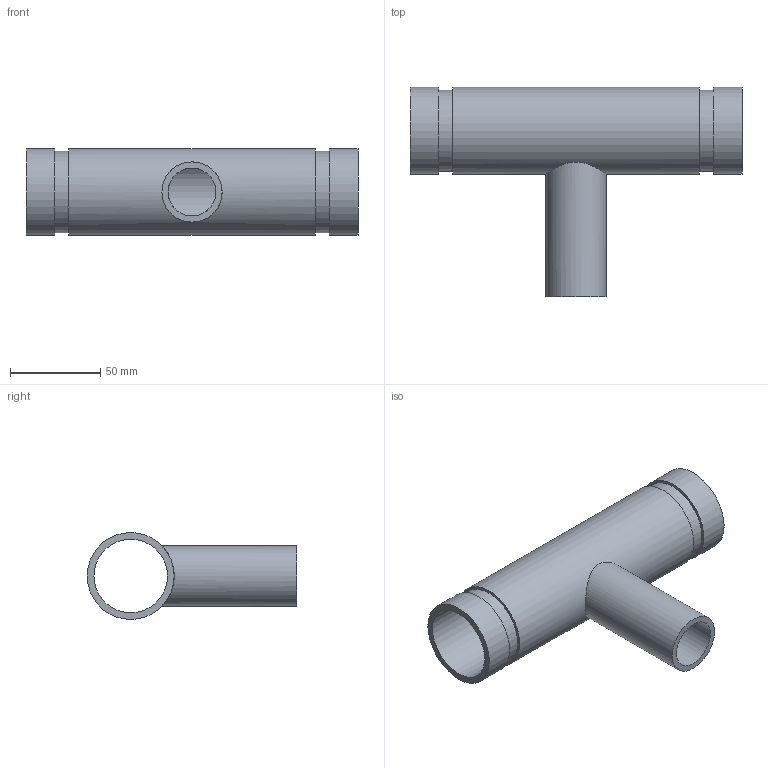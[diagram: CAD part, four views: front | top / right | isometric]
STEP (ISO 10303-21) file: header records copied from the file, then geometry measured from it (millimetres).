
FILE_DESCRIPTION(/* description */ ('VIC REDUCING TEE No 29T FFT (OGSxMPT)','CAx-IF Rec.Pracs.---Representation and Presentation of Product Manufacturing Information (PMI)---4.0---2014-10-13'),/* implementation_level */ '2;1');
FILE_NAME(/* name */ 'C:\Users\kkamble\AppData\Roaming\Autodesk\ApplicationPlugins\Back Up\Victaulic_IPS_Tee Reducing_No 29T FFT (OGSxMPT)\Victaulic_IPS_Tee Reducing_No 29T FFT (OGSxMPT)_01.5x01.0 (40x25).stp',/* time_stamp */ '2020-09-16T22:36:54+05:00',/* author */ ('CORINNE GRAY'),/* organization */ ('Victaulic'),/* preprocessor_version */ 'ST-DEVELOPER v17.2',/* originating_system */ 'Autodesk Inventor 2019',/* authorisation */ '');
FILE_SCHEMA (('AP242_MANAGED_MODEL_BASED_3D_ENGINEERING_MIM_LF { 1 0 10303 442 1 1 4 }'));
Length unit declared in the file: inch
Products named in the file (1): 29 FFT-01.5x01.0
Bounding box: 184.4 x 116.33 x 48.26 mm (x, y, z)
Volume: 111758.4 mm3; surface area: 65923.6 mm2
Topology: 1 solids, 1 shells, 15 faces, 32 edges, 24 vertices
Faces by surface type: cylinder 8, plane 7
Full cylindrical faces by diameter (mm): 26.645 x1, 33.401 x1, 40.894 x1, 45.085 x2, 48.26 x3
Entity records: 685 total; most frequent: CARTESIAN_POINT 197, DIRECTION 106, ORIENTED_EDGE 64, AXIS2_PLACEMENT_3D 49, EDGE_CURVE 32, EDGE_LOOP 24, VERTEX_POINT 24, CIRCLE 20
